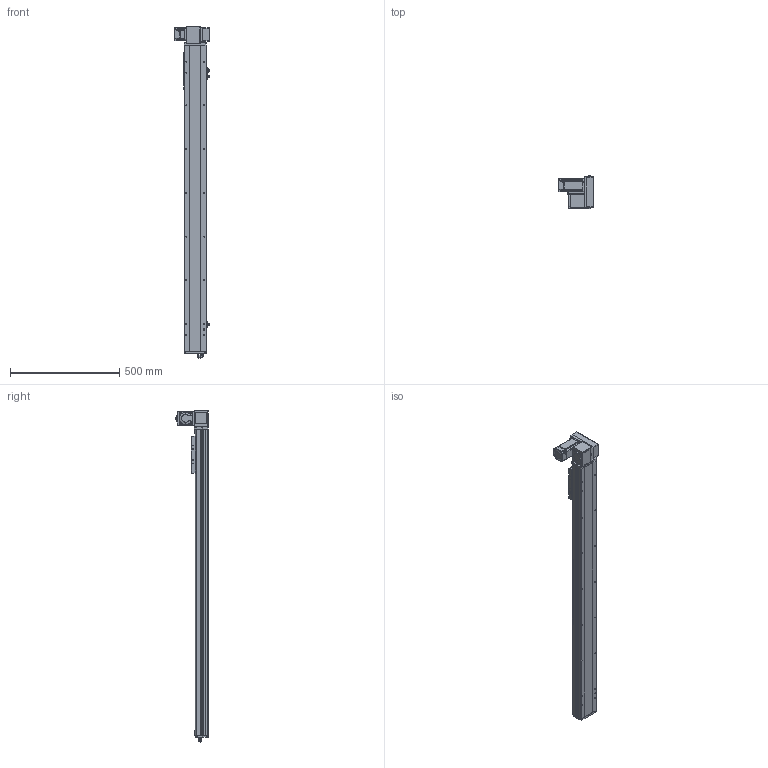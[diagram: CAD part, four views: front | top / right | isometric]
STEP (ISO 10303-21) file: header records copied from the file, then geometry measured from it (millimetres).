
FILE_DESCRIPTION (( 'STEP AP214' ), '1' );
FILE_NAME ('TPE10-L41.6-1150-RU-P20-C4.STEP', '2023-03-13T03:19:58', ( '' ), ( '' ), 'SwSTEP 2.0', 'SolidWorks 2020', '' );
FILE_SCHEMA (( 'AUTOMOTIVE_DESIGN' ));
Length unit declared in the file: millimetre
Products named in the file (16): 葩璃 TPF10 詩湍揤啣 TPF10 12^TPE10-L41.6-RU-P20-C4; 葩璃 侂狟400W^TPE10-L41.6-RU-P20-C4; 葩璃 TPE10-L-001 菁釱MZ-102A-01^TPE10-L41.6-RU-P20-C4; 葩璃 TPE10-007 々湍釱MZ-169x88^TPE10-L41.6-RU-P20-C4; 葩璃 詩湍75^TPE10-L41.6-RU-P20-C4; 葩璃 pm-t65-672^TPE10-L41.6-RU-P20-C4; 葩璃 TPE10 賑雄殤 TPE10^TPE10-L41.6-RU-P20-C4; 葩璃 TPF10-L-008 耜醱啣^TPE10-L41.6-RU-P20-C4; hexagon head bolts-full thread gb_GB_FASTENER_BOLT_STBAB A M5X16-N; hex nuts, style 1-grades ab gb_GB_FASTENER_NUT_SNAB1 M3-N; TPE10-L41.6-1150-RU-P20-C4; 葩璃 侂狟100W^TPE10-L41.6-RU-P20-C4; 葩璃 TPE10-L-002 耜裔ZTMT-102B-04^TPE10-L41.6-RU-P20-C4; 葩璃 TPT10-L-009 萇儂啣^TPE10-L41.6-RU-P20-C4_200W; hexagon socket head cap screws gb_GB_FASTENER_SCREWS_HSHCS M3X6-N; 葩璃 PL8-02^TPE10-L41.6-RU-P20-C4
Assembly tree (29 placements, depth 2):
  TPE10-L41.6-1150-RU-P20-C4
    葩璃 TPE10-L-001 菁釱MZ-102A-01^TPE10-L41.6-RU-P20-C4
    葩璃 TPE10-L-002 耜裔ZTMT-102B-04^TPE10-L41.6-RU-P20-C4  x2
    葩璃 詩湍75^TPE10-L41.6-RU-P20-C4
    葩璃 TPE10-007 々湍釱MZ-169x88^TPE10-L41.6-RU-P20-C4
    葩璃 TPF10-L-008 耜醱啣^TPE10-L41.6-RU-P20-C4
    葩璃 TPE10 賑雄殤 TPE10^TPE10-L41.6-RU-P20-C4
    葩璃 TPF10 詩湍揤啣 TPF10 12^TPE10-L41.6-RU-P20-C4  x2
    葩璃 TPT10-L-009 萇儂啣^TPE10-L41.6-RU-P20-C4_200W
    葩璃 pm-t65-672^TPE10-L41.6-RU-P20-C4  x3
    葩璃 PL8-02^TPE10-L41.6-RU-P20-C4
    葩璃 侂狟100W^TPE10-L41.6-RU-P20-C4
    葩璃 侂狟400W^TPE10-L41.6-RU-P20-C4
    hexagon socket head cap screws gb_GB_FASTENER_SCREWS_HSHCS M3X6-N  x6
    hex nuts, style 1-grades ab gb_GB_FASTENER_NUT_SNAB1 M3-N  x6
    hexagon head bolts-full thread gb_GB_FASTENER_BOLT_STBAB A M5X16-N
Bounding box: 162.5 x 149.65 x 1518.35 mm (x, y, z)
Volume: 5125720 mm3; surface area: 1266072.1 mm2
Topology: 37 solids, 37 shells, 2045 faces, 5241 edges, 3324 vertices
Faces by surface type: plane 1106, cylinder 645, cone 224, bspline 42, torus 26, sphere 2
Entity records: 51216 total; most frequent: CARTESIAN_POINT 10554, DIRECTION 8224, ORIENTED_EDGE 7906, EDGE_CURVE 3953, AXIS2_PLACEMENT_3D 2892, VERTEX_POINT 2551, VECTOR 2440, LINE 2440
